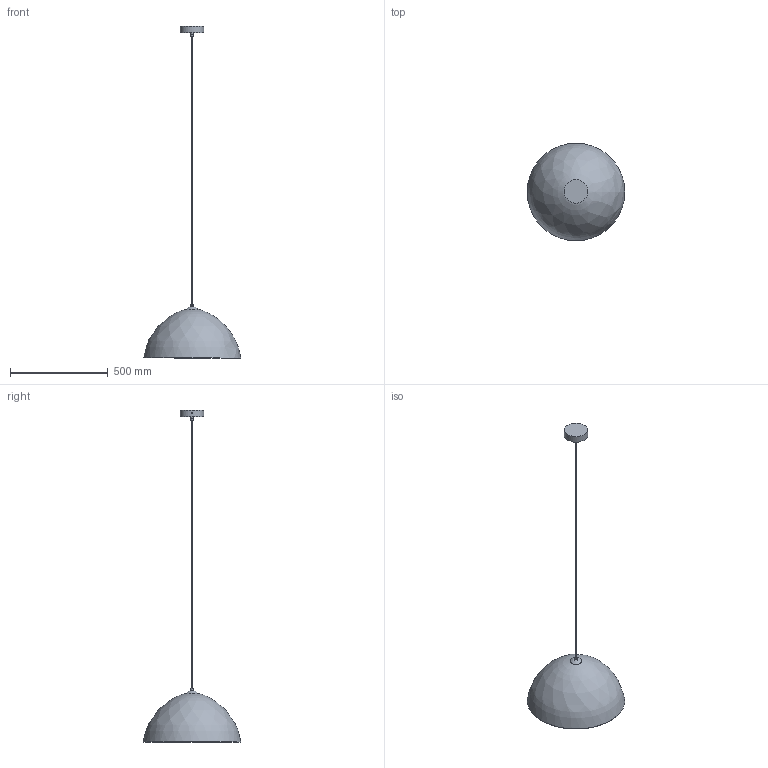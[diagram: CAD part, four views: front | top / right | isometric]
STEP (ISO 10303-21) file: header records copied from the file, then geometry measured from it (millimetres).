
FILE_DESCRIPTION(/* description */ (''),/* implementation_level */ '2;1');
FILE_NAME(/* name */ 'C:/Users/Jakub Wieczorkowski/Desktop/STEP/6006_FARO NEW v3 v2 v1.step',/* time_stamp */ '2022-02-22T08:57:03+01:00',/* author */ (''),/* organization */ (''),/* preprocessor_version */ 'ST-DEVELOPER v18.1',/* originating_system */ 'Autodesk Translation Framework v10.13.0.1454',/* authorisation */ '');
FILE_SCHEMA (('AUTOMOTIVE_DESIGN { 1 0 10303 214 3 1 1 }'));
Length unit declared in the file: millimetre
Products named in the file (6): 6006_FARO NEW v3 v2; Cięgno v2 v1 v1; FARO NEW 500 v2; FARO NEW_OPRAWA v3; SRUBA MAXI v1; SRUBA FARO NEW v1(Mirror)
Assembly tree (5 placements, depth 2):
  6006_FARO NEW v3 v2
    Cięgno v2 v1 v1
    FARO NEW 500 v2
    FARO NEW_OPRAWA v3
    SRUBA MAXI v1
    SRUBA FARO NEW v1(Mirror)
Bounding box: 500 x 500 x 1700 mm (x, y, z)
Volume: 862108.9 mm3; surface area: 826100.3 mm2
Topology: 13 solids, 13 shells, 124 faces, 331 edges, 238 vertices
Faces by surface type: plane 58, cylinder 51, bspline 9, cone 4, torus 1, sphere 1
Full cylindrical faces by diameter (mm): 5 x2, 6 x1, 8 x2, 23.022 x14, 25.256 x14, 27.5 x2, 37.7 x1, 39 x1, 120 x1
Entity records: 18697 total; most frequent: CARTESIAN_POINT 15622, ORIENTED_EDGE 662, DIRECTION 503, EDGE_CURVE 331, VERTEX_POINT 238, AXIS2_PLACEMENT_3D 195, B_SPLINE_CURVE_WITH_KNOTS 149, EDGE_LOOP 133
